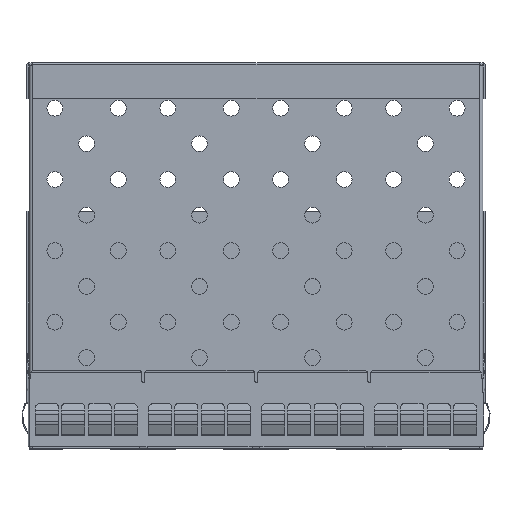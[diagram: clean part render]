
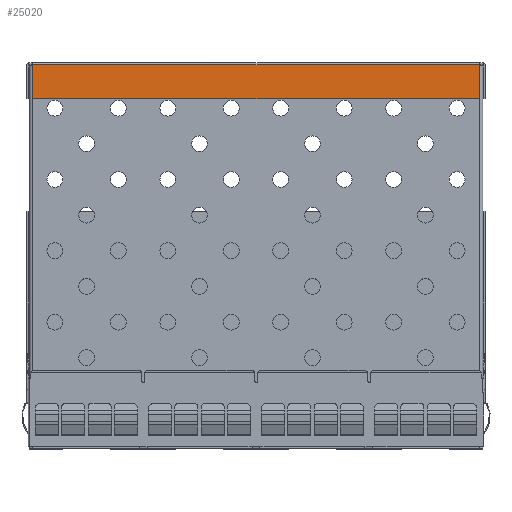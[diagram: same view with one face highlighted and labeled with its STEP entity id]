
A CAD part, top view. The second image highlights one B-rep face of the part: STEP entity #25020.
In plain terms, the highlighted planar face has unit normal (0, 0, 1).
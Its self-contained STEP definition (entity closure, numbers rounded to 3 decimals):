
#5994 = CARTESIAN_POINT ( 'NONE',  ( 28.175, 48.45, 0.3 ) ) ;
#6288 = AXIS2_PLACEMENT_3D ( 'NONE', #65714, #71371, #21205 ) ;
#9137 = VECTOR ( 'NONE', #53481, 1000. ) ;
#9804 = VECTOR ( 'NONE', #45593, 1000. ) ;
#16375 = EDGE_CURVE ( 'NONE', #72375, #57304, #67563, .T. ) ;
#21000 = DIRECTION ( 'NONE',  ( 0., 1., 0. ) ) ;
#21205 = DIRECTION ( 'NONE',  ( 0., -1., 0. ) ) ;
#22648 = VERTEX_POINT ( 'NONE', #36065 ) ;
#22922 = EDGE_LOOP ( 'NONE', ( #58551, #61912, #36590, #49689 ) ) ;
#24892 = LINE ( 'NONE', #5994, #9804 ) ;
#25020 = ADVANCED_FACE ( 'NONE', ( #38014 ), #32011, .F. ) ;
#28653 = VERTEX_POINT ( 'NONE', #64531 ) ;
#32011 = PLANE ( 'NONE',  #6288 ) ;
#33512 = EDGE_CURVE ( 'NONE', #22648, #28653, #43165, .T. ) ;
#36065 = CARTESIAN_POINT ( 'NONE',  ( -28.175, 48.45, 0.3 ) ) ;
#36529 = EDGE_CURVE ( 'NONE', #28653, #72375, #39272, .T. ) ;
#36590 = ORIENTED_EDGE ( 'NONE', *, *, #33512, .T. ) ;
#37759 = CARTESIAN_POINT ( 'NONE',  ( 28.175, 48.45, 0.3 ) ) ;
#38014 = FACE_OUTER_BOUND ( 'NONE', #22922, .T. ) ;
#39003 = DIRECTION ( 'NONE',  ( 0., -1., 0. ) ) ;
#39272 = LINE ( 'NONE', #53732, #9137 ) ;
#43165 = LINE ( 'NONE', #72652, #44079 ) ;
#44079 = VECTOR ( 'NONE', #39003, 1000. ) ;
#45593 = DIRECTION ( 'NONE',  ( -1., 0., 0. ) ) ;
#49689 = ORIENTED_EDGE ( 'NONE', *, *, #36529, .T. ) ;
#52688 = VECTOR ( 'NONE', #21000, 1000. ) ;
#53481 = DIRECTION ( 'NONE',  ( 1., 0., 0. ) ) ;
#53732 = CARTESIAN_POINT ( 'NONE',  ( 28.175, 44.2, 0.3 ) ) ;
#57304 = VERTEX_POINT ( 'NONE', #65417 ) ;
#58551 = ORIENTED_EDGE ( 'NONE', *, *, #16375, .T. ) ;
#61912 = ORIENTED_EDGE ( 'NONE', *, *, #63791, .T. ) ;
#63791 = EDGE_CURVE ( 'NONE', #57304, #22648, #24892, .T. ) ;
#64531 = CARTESIAN_POINT ( 'NONE',  ( -28.175, 44.2, 0.3 ) ) ;
#65417 = CARTESIAN_POINT ( 'NONE',  ( 28.175, 48.45, 0.3 ) ) ;
#65714 = CARTESIAN_POINT ( 'NONE',  ( 0., 48.45, 0.3 ) ) ;
#66346 = CARTESIAN_POINT ( 'NONE',  ( 28.175, 44.2, 0.3 ) ) ;
#67563 = LINE ( 'NONE', #37759, #52688 ) ;
#71371 = DIRECTION ( 'NONE',  ( 0., 0., -1. ) ) ;
#72375 = VERTEX_POINT ( 'NONE', #66346 ) ;
#72652 = CARTESIAN_POINT ( 'NONE',  ( -28.175, 44.2, 0.3 ) ) ;
